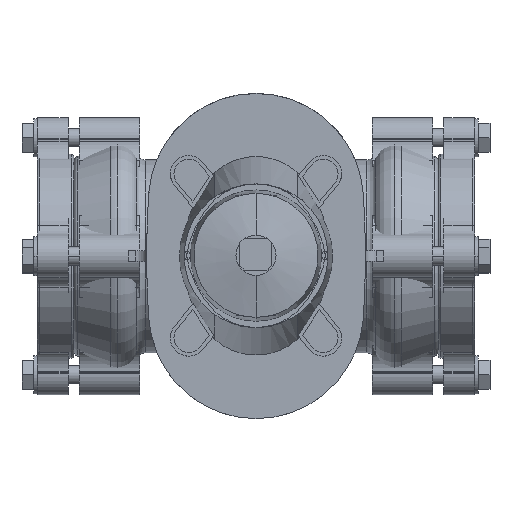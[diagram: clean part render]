
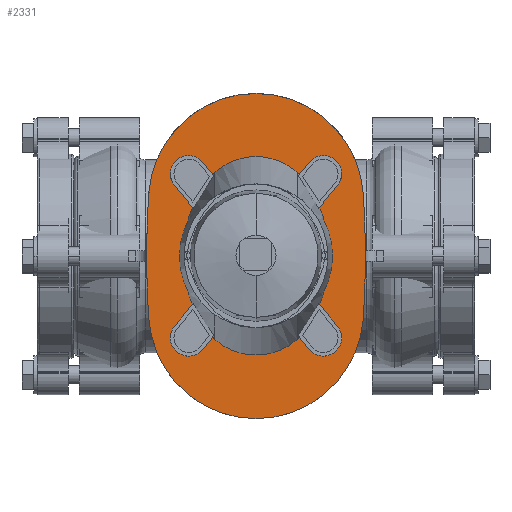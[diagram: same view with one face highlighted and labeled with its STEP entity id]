
A CAD part, top view. The second image highlights one B-rep face of the part: STEP entity #2331.
In plain terms, the highlighted planar face has unit normal (0, 0, 1).
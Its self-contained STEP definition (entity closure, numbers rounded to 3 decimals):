
#2331=ADVANCED_FACE('',(#4641),#4642,.T.);
#4641=FACE_OUTER_BOUND('',#7759,.T.);
#4642=PLANE('',#7760);
#7759=EDGE_LOOP('',(#11846,#11847,#11848,#11849,#11850,#11851));
#7760=AXIS2_PLACEMENT_3D('',#11852,#11853,#11854);
#11846=ORIENTED_EDGE('',*,*,#17555,.F.);
#11847=ORIENTED_EDGE('',*,*,#17556,.F.);
#11848=ORIENTED_EDGE('',*,*,#17557,.F.);
#11849=ORIENTED_EDGE('',*,*,#17558,.F.);
#11850=ORIENTED_EDGE('',*,*,#17559,.F.);
#11851=ORIENTED_EDGE('',*,*,#17560,.F.);
#11852=CARTESIAN_POINT('',(30.006,-0.097,129.0));
#11853=DIRECTION('',(0.0,0.0,1.0));
#11854=DIRECTION('',(1.0,0.0,0.0));
#17555=EDGE_CURVE('',#21062,#21063,#21064,.T.);
#17556=EDGE_CURVE('',#21065,#21062,#21066,.T.);
#17557=EDGE_CURVE('',#21067,#21065,#21068,.T.);
#17558=EDGE_CURVE('',#21069,#21067,#21070,.T.);
#17559=EDGE_CURVE('',#21071,#21069,#21072,.T.);
#17560=EDGE_CURVE('',#21063,#21071,#21073,.T.);
#21062=VERTEX_POINT('',#25511);
#21063=VERTEX_POINT('',#25512);
#21064=CIRCLE('',#25513,529.445);
#21065=VERTEX_POINT('',#25514);
#21066=CIRCLE('',#25515,59.);
#21067=VERTEX_POINT('',#25516);
#21068=CIRCLE('',#25517,529.445);
#21069=VERTEX_POINT('',#25518);
#21070=CIRCLE('',#25519,529.445);
#21071=VERTEX_POINT('',#25520);
#21072=CIRCLE('',#25521,59.);
#21073=CIRCLE('',#25522,529.445);
#25511=CARTESIAN_POINT('',(88.877,33.915,129.0));
#25512=CARTESIAN_POINT('',(89.977,-0.193,129.0));
#25513=AXIS2_PLACEMENT_3D('',#29507,#29508,#29509);
#25514=CARTESIAN_POINT('',(-28.879,33.891,129.0));
#25515=AXIS2_PLACEMENT_3D('',#29510,#29511,#29512);
#25516=CARTESIAN_POINT('',(-29.965,0.,129.0));
#25517=AXIS2_PLACEMENT_3D('',#29513,#29514,#29515);
#25518=CARTESIAN_POINT('',(-28.865,-34.108,129.0));
#25519=AXIS2_PLACEMENT_3D('',#29516,#29517,#29518);
#25520=CARTESIAN_POINT('',(88.891,-34.084,129.0));
#25521=AXIS2_PLACEMENT_3D('',#29519,#29520,#29521);
#25522=AXIS2_PLACEMENT_3D('',#29522,#29523,#29524);
#29507=CARTESIAN_POINT('',(-439.468,-0.193,129.0));
#29508=DIRECTION('',(0.0,0.0,-1.0));
#29509=DIRECTION('',(1.0,0.0,0.0));
#29510=CARTESIAN_POINT('',(30.,30.114,129.0));
#29511=DIRECTION('',(0.0,0.0,-1.0));
#29512=DIRECTION('',(1.0,0.0,0.0));
#29513=CARTESIAN_POINT('',(499.48,0.,129.0));
#29514=DIRECTION('',(0.0,0.0,-1.0));
#29515=DIRECTION('',(1.0,0.0,0.0));
#29516=CARTESIAN_POINT('',(499.48,0.,129.0));
#29517=DIRECTION('',(0.0,0.0,-1.0));
#29518=DIRECTION('',(1.0,0.0,0.0));
#29519=CARTESIAN_POINT('',(30.012,-30.307,129.0));
#29520=DIRECTION('',(0.0,0.0,-1.0));
#29521=DIRECTION('',(1.0,0.0,0.0));
#29522=CARTESIAN_POINT('',(-439.468,-0.193,129.0));
#29523=DIRECTION('',(0.0,0.0,-1.0));
#29524=DIRECTION('',(1.0,0.0,0.0));
